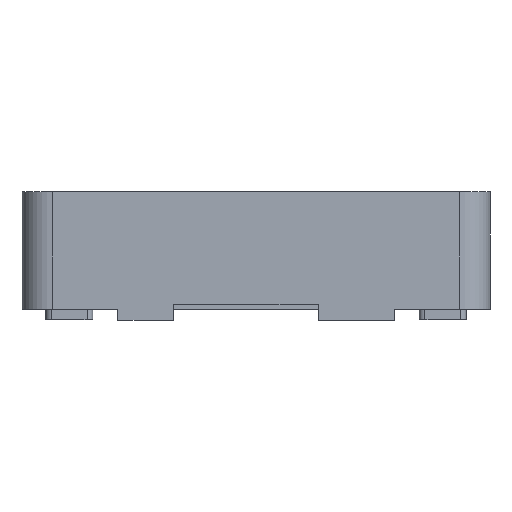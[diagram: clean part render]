
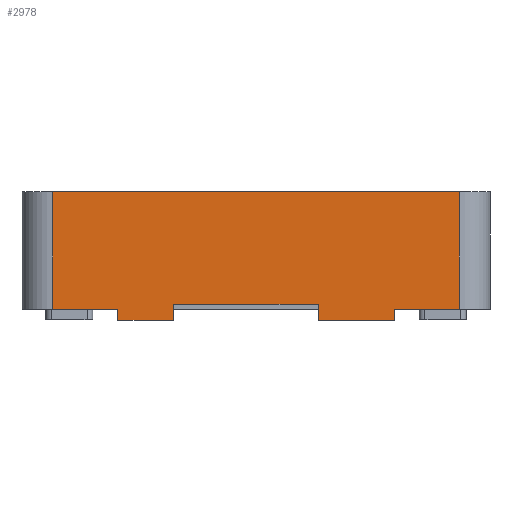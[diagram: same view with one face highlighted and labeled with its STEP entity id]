
A CAD part, front view. The second image highlights one B-rep face of the part: STEP entity #2978.
In plain terms, the highlighted planar face has unit normal (0, -1, 0).
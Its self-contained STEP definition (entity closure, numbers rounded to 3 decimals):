
#342=FACE_OUTER_BOUND('',#506,.T.);
#506=EDGE_LOOP('',(#2659,#2660,#2661,#2662,#2663,#2664,#2665,#2666,#2667,
#2668,#2669,#2670));
#640=LINE('',#4437,#958);
#735=LINE('',#4725,#1053);
#740=LINE('',#4743,#1058);
#804=LINE('',#4926,#1122);
#807=LINE('',#4931,#1125);
#810=LINE('',#4938,#1128);
#813=LINE('',#4943,#1131);
#815=LINE('',#4947,#1133);
#818=LINE('',#4952,#1136);
#819=LINE('',#4954,#1137);
#820=LINE('',#4957,#1138);
#822=LINE('',#4960,#1140);
#958=VECTOR('',#3565,10.);
#1053=VECTOR('',#3828,10.);
#1058=VECTOR('',#3845,10.);
#1122=VECTOR('',#4039,10.);
#1125=VECTOR('',#4044,10.);
#1128=VECTOR('',#4049,10.);
#1131=VECTOR('',#4054,10.);
#1133=VECTOR('',#4058,10.);
#1136=VECTOR('',#4063,10.);
#1137=VECTOR('',#4066,10.);
#1138=VECTOR('',#4069,10.);
#1140=VECTOR('',#4073,10.);
#1254=VERTEX_POINT('',#4423);
#1260=VERTEX_POINT('',#4435);
#1368=VERTEX_POINT('',#4722);
#1369=VERTEX_POINT('',#4724);
#1375=VERTEX_POINT('',#4740);
#1376=VERTEX_POINT('',#4742);
#1433=VERTEX_POINT('',#4936);
#1434=VERTEX_POINT('',#4937);
#1435=VERTEX_POINT('',#4942);
#1436=VERTEX_POINT('',#4946);
#1437=VERTEX_POINT('',#4950);
#1438=VERTEX_POINT('',#4956);
#1598=EDGE_CURVE('',#1254,#1260,#640,.T.);
#1740=EDGE_CURVE('',#1369,#1368,#735,.T.);
#1749=EDGE_CURVE('',#1376,#1375,#740,.T.);
#1842=EDGE_CURVE('',#1369,#1260,#804,.T.);
#1845=EDGE_CURVE('',#1375,#1254,#807,.T.);
#1848=EDGE_CURVE('',#1433,#1434,#810,.T.);
#1851=EDGE_CURVE('',#1434,#1435,#813,.T.);
#1853=EDGE_CURVE('',#1436,#1433,#815,.T.);
#1856=EDGE_CURVE('',#1437,#1436,#818,.T.);
#1857=EDGE_CURVE('',#1376,#1437,#819,.T.);
#1858=EDGE_CURVE('',#1435,#1438,#820,.T.);
#1860=EDGE_CURVE('',#1438,#1368,#822,.T.);
#2659=ORIENTED_EDGE('',*,*,#1851,.F.);
#2660=ORIENTED_EDGE('',*,*,#1848,.F.);
#2661=ORIENTED_EDGE('',*,*,#1853,.F.);
#2662=ORIENTED_EDGE('',*,*,#1856,.F.);
#2663=ORIENTED_EDGE('',*,*,#1857,.F.);
#2664=ORIENTED_EDGE('',*,*,#1749,.T.);
#2665=ORIENTED_EDGE('',*,*,#1845,.T.);
#2666=ORIENTED_EDGE('',*,*,#1598,.T.);
#2667=ORIENTED_EDGE('',*,*,#1842,.F.);
#2668=ORIENTED_EDGE('',*,*,#1740,.T.);
#2669=ORIENTED_EDGE('',*,*,#1860,.F.);
#2670=ORIENTED_EDGE('',*,*,#1858,.F.);
#2833=PLANE('',#3255);
#2978=ADVANCED_FACE('',(#342),#2833,.T.);
#3255=AXIS2_PLACEMENT_3D('',#4961,#4074,#4075);
#3565=DIRECTION('',(-1.,0.,0.));
#3828=DIRECTION('',(1.,0.,0.));
#3845=DIRECTION('',(1.,0.,0.));
#4039=DIRECTION('',(0.,0.,1.));
#4044=DIRECTION('',(0.,0.,1.));
#4049=DIRECTION('',(-1.,0.,0.));
#4054=DIRECTION('',(0.,0.,-1.));
#4058=DIRECTION('',(0.,0.,1.));
#4063=DIRECTION('',(-1.,0.,0.));
#4066=DIRECTION('',(0.,0.,-1.));
#4069=DIRECTION('',(-1.,0.,0.));
#4073=DIRECTION('',(0.,0.,1.));
#4074=DIRECTION('center_axis',(0.,-1.,0.));
#4075=DIRECTION('ref_axis',(1.,0.,0.));
#4423=CARTESIAN_POINT('',(59.3,6.85,15.));
#4435=CARTESIAN_POINT('',(24.3,6.85,15.));
#4437=CARTESIAN_POINT('',(46.114,6.85,15.));
#4722=CARTESIAN_POINT('',(29.9,6.85,4.9));
#4724=CARTESIAN_POINT('',(24.3,6.85,4.9));
#4725=CARTESIAN_POINT('',(33.05,6.85,4.9));
#4740=CARTESIAN_POINT('',(59.3,6.85,4.9));
#4742=CARTESIAN_POINT('',(53.7,6.85,4.9));
#4743=CARTESIAN_POINT('',(46.114,6.85,4.9));
#4926=CARTESIAN_POINT('',(24.3,6.85,0.));
#4931=CARTESIAN_POINT('',(59.3,6.85,0.));
#4936=CARTESIAN_POINT('',(47.155,6.85,5.33));
#4937=CARTESIAN_POINT('',(34.695,6.85,5.33));
#4938=CARTESIAN_POINT('',(42.561,6.85,5.33));
#4942=CARTESIAN_POINT('',(34.695,6.85,3.95));
#4943=CARTESIAN_POINT('',(34.695,6.85,4.662));
#4946=CARTESIAN_POINT('',(47.155,6.85,3.95));
#4947=CARTESIAN_POINT('',(47.155,6.85,4.187));
#4950=CARTESIAN_POINT('',(53.7,6.85,3.95));
#4952=CARTESIAN_POINT('',(57.5,6.85,3.95));
#4954=CARTESIAN_POINT('',(53.7,6.85,4.9));
#4956=CARTESIAN_POINT('',(29.9,6.85,3.95));
#4957=CARTESIAN_POINT('',(57.5,6.85,3.95));
#4960=CARTESIAN_POINT('',(29.9,6.85,3.95));
#4961=CARTESIAN_POINT('Origin',(50.427,6.85,4.425));
